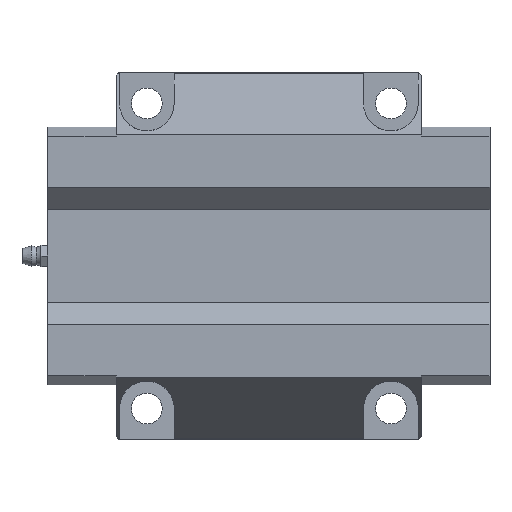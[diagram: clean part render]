
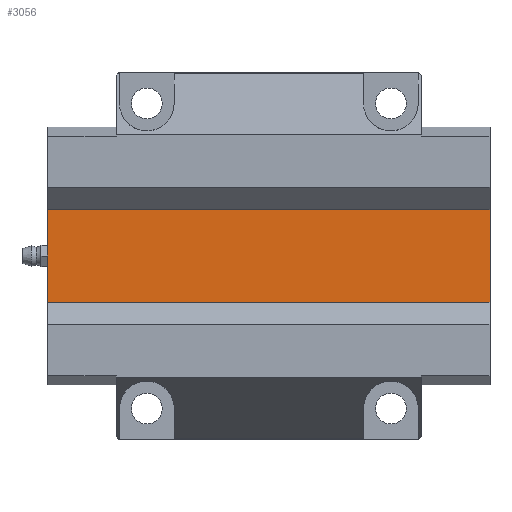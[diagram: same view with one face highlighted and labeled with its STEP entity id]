
A CAD part, front view. The second image highlights one B-rep face of the part: STEP entity #3056.
In plain terms, the highlighted planar face has unit normal (0, -1, 0).
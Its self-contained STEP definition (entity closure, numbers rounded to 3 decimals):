
#809=ORIENTED_EDGE('',*,*,#1214,.F.);
#810=ORIENTED_EDGE('',*,*,#1407,.F.);
#811=ORIENTED_EDGE('',*,*,#1157,.T.);
#812=ORIENTED_EDGE('',*,*,#1408,.T.);
#1157=EDGE_CURVE('',#1573,#1572,#1859,.T.);
#1214=EDGE_CURVE('',#1626,#1627,#1895,.T.);
#1407=EDGE_CURVE('',#1573,#1626,#2057,.T.);
#1408=EDGE_CURVE('',#1572,#1627,#2058,.T.);
#1572=VERTEX_POINT('',#4517);
#1573=VERTEX_POINT('',#4519);
#1626=VERTEX_POINT('',#4629);
#1627=VERTEX_POINT('',#4631);
#1859=LINE('',#4518,#2129);
#1895=LINE('',#4630,#2165);
#2057=LINE('',#5009,#2327);
#2058=LINE('',#5011,#2328);
#2129=VECTOR('',#3594,1000.);
#2165=VECTOR('',#3674,1000.);
#2327=VECTOR('',#4050,1000.);
#2328=VECTOR('',#4053,1000.);
#2461=EDGE_LOOP('',(#809,#810,#811,#812));
#2713=FACE_BOUND('',#2461,.T.);
#2925=PLANE('',#3336);
#3056=ADVANCED_FACE('',(#2713),#2925,.T.);
#3336=AXIS2_PLACEMENT_3D('',#5010,#4051,#4052);
#3594=DIRECTION('',(0.,0.,1.));
#3674=DIRECTION('',(0.,0.,1.));
#4050=DIRECTION('',(-1.,0.,0.));
#4051=DIRECTION('',(0.,-1.,0.));
#4052=DIRECTION('',(0.,0.,-1.));
#4053=DIRECTION('',(-1.,0.,0.));
#4517=CARTESIAN_POINT('',(72.5,29.6,21.47));
#4518=CARTESIAN_POINT('',(72.5,29.6,-21.47));
#4519=CARTESIAN_POINT('',(72.5,29.6,-21.47));
#4629=CARTESIAN_POINT('',(-72.5,29.6,-21.47));
#4630=CARTESIAN_POINT('',(-72.5,29.6,-21.47));
#4631=CARTESIAN_POINT('',(-72.5,29.6,21.47));
#5009=CARTESIAN_POINT('',(72.5,29.6,-21.47));
#5010=CARTESIAN_POINT('',(72.5,29.6,-21.47));
#5011=CARTESIAN_POINT('',(72.5,29.6,21.47));
